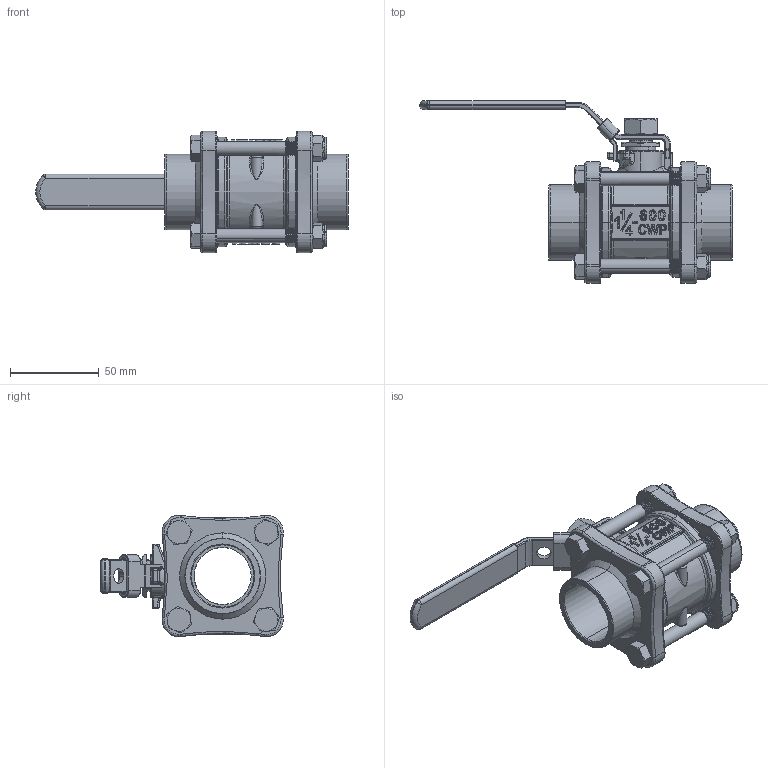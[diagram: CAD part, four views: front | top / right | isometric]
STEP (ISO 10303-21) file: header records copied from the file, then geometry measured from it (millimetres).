
FILE_DESCRIPTION (( 'STEP AP203' ), '1' );
FILE_NAME ('S-32.STEP', '2025-02-27T05:20:06', ( 'user' ), ( '' ), 'SwSTEP 2.0', 'SolidWorks 2012', '' );
FILE_SCHEMA (( 'CONFIG_CONTROL_DESIGN' ));
Products named in the file (17): S-32; 掛鎖; 15-HANDLE NUT; 14-HANDLE COVER; 13-HANDLE; 12-CAP BOLT; 11-CAP NUT; 10-GLAND; 9-BODY SEAL; 8-GLAND PACKING; 7-O-RING; 6-THRUST WASHER; 5-SEAT; 4-STEM; 3-BALL; 2-CAP; 1-BODY
Assembly tree (26 placements, depth 2):
  S-32
    1-BODY
    2-CAP  x2
    3-BALL
    4-STEM
    5-SEAT  x2
    6-THRUST WASHER
    7-O-RING  x2
    8-GLAND PACKING
    9-BODY SEAL  x2
    10-GLAND
    11-CAP NUT  x4
    12-CAP BOLT  x4
    13-HANDLE
    14-HANDLE COVER
    15-HANDLE NUT
    掛鎖
Bounding box: 175.64 x 102.7 x 68.21 mm (x, y, z)
Volume: 195767.5 mm3; surface area: 106856.8 mm2
Topology: 26 solids, 26 shells, 1601 faces, 3971 edges, 2409 vertices
Faces by surface type: cylinder 526, bspline 382, plane 327, cone 178, torus 138, sphere 50
Entity records: 76492 total; most frequent: CARTESIAN_POINT 50016, ORIENTED_EDGE 5564, DIRECTION 4528, EDGE_CURVE 2782, AXIS2_PLACEMENT_3D 1853, VERTEX_POINT 1691, EDGE_LOOP 1235, FACE_OUTER_BOUND 1160
